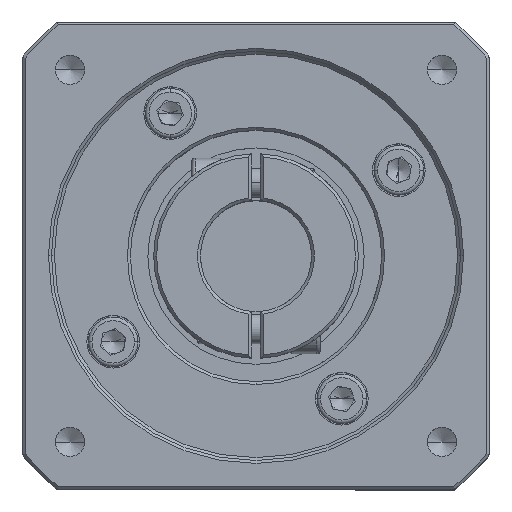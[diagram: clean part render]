
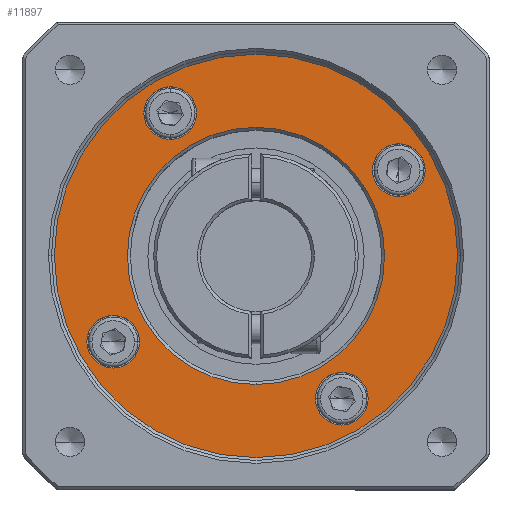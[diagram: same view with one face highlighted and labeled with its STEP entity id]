
A CAD part, top view. The second image highlights one B-rep face of the part: STEP entity #11897.
In plain terms, the highlighted planar face has unit normal (0, 0, 1).
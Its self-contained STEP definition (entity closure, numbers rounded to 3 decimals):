
#273 = DIRECTION ( 'NONE',  ( 1., 0., 0. ) ) ;
#338 = CARTESIAN_POINT ( 'NONE',  ( -43.248, 23.13, 32.239 ) ) ;
#1058 = DIRECTION ( 'NONE',  ( 0., 0., -1. ) ) ;
#1316 = AXIS2_PLACEMENT_3D ( 'NONE', #5405, #56352, #273 ) ;
#1879 = DIRECTION ( 'NONE',  ( 1., 0., 0. ) ) ;
#2156 = CARTESIAN_POINT ( 'NONE',  ( -72.177, 8.452, 32.239 ) ) ;
#2739 = VERTEX_POINT ( 'NONE', #53524 ) ;
#3490 = ORIENTED_EDGE ( 'NONE', *, *, #63271, .T. ) ;
#3627 = DIRECTION ( 'NONE',  ( 1., 0., 0. ) ) ;
#4396 = DIRECTION ( 'NONE',  ( 1., 0., 0. ) ) ;
#4663 = CARTESIAN_POINT ( 'NONE',  ( -43.248, 23.13, 32.239 ) ) ;
#5280 = EDGE_LOOP ( 'NONE', ( #51762, #47919 ) ) ;
#5405 = CARTESIAN_POINT ( 'NONE',  ( -67.677, 8.452, 32.239 ) ) ;
#6838 = DIRECTION ( 'NONE',  ( 0., 0., 1. ) ) ;
#6899 = CARTESIAN_POINT ( 'NONE',  ( -43.248, 23.13, 32.239 ) ) ;
#7032 = DIRECTION ( 'NONE',  ( 1., 0., 0. ) ) ;
#7097 = VERTEX_POINT ( 'NONE', #59295 ) ;
#7303 = FACE_OUTER_BOUND ( 'NONE', #44207, .T. ) ;
#7566 = EDGE_CURVE ( 'NONE', #13433, #33859, #61888, .T. ) ;
#9290 = EDGE_LOOP ( 'NONE', ( #30066, #75262 ) ) ;
#9489 = EDGE_CURVE ( 'NONE', #14226, #14202, #27117, .T. ) ;
#10874 = AXIS2_PLACEMENT_3D ( 'NONE', #69999, #45006, #38437 ) ;
#11296 = CIRCLE ( 'NONE', #22037, 4.5 ) ;
#11306 = CARTESIAN_POINT ( 'NONE',  ( -8.748, 23.13, 32.239 ) ) ;
#11422 = CIRCLE ( 'NONE', #46337, 4.5 ) ;
#11675 = CIRCLE ( 'NONE', #61567, 34.5 ) ;
#11897 = ADVANCED_FACE ( 'NONE', ( #63905, #7303, #57037, #30707, #78510, #74578 ), #36251, .T. ) ;
#12022 = ORIENTED_EDGE ( 'NONE', *, *, #64963, .T. ) ;
#13433 = VERTEX_POINT ( 'NONE', #41817 ) ;
#14050 = EDGE_LOOP ( 'NONE', ( #34377, #3490 ) ) ;
#14202 = VERTEX_POINT ( 'NONE', #14362 ) ;
#14226 = VERTEX_POINT ( 'NONE', #2156 ) ;
#14232 = EDGE_CURVE ( 'NONE', #32141, #39392, #11296, .T. ) ;
#14362 = CARTESIAN_POINT ( 'NONE',  ( -63.177, 8.452, 32.239 ) ) ;
#14648 = CIRCLE ( 'NONE', #10874, 4.5 ) ;
#16635 = ORIENTED_EDGE ( 'NONE', *, *, #65085, .T. ) ;
#17646 = DIRECTION ( 'NONE',  ( 1., 0., 0. ) ) ;
#19461 = EDGE_CURVE ( 'NONE', #14202, #14226, #19633, .T. ) ;
#19633 = CIRCLE ( 'NONE', #71092, 4.5 ) ;
#22037 = AXIS2_PLACEMENT_3D ( 'NONE', #45222, #76546, #1879 ) ;
#23195 = DIRECTION ( 'NONE',  ( 1., 0., 0. ) ) ;
#23222 = DIRECTION ( 'NONE',  ( 0., 0., -1. ) ) ;
#23503 = CARTESIAN_POINT ( 'NONE',  ( -14.319, 37.809, 32.239 ) ) ;
#24129 = CARTESIAN_POINT ( 'NONE',  ( -43.248, 23.13, 32.239 ) ) ;
#27117 = CIRCLE ( 'NONE', #1316, 4.5 ) ;
#28184 = EDGE_CURVE ( 'NONE', #7097, #32059, #62488, .T. ) ;
#28733 = DIRECTION ( 'NONE',  ( 0., 0., -1. ) ) ;
#29053 = ORIENTED_EDGE ( 'NONE', *, *, #58719, .T. ) ;
#29219 = CARTESIAN_POINT ( 'NONE',  ( -67.677, 8.452, 32.239 ) ) ;
#30066 = ORIENTED_EDGE ( 'NONE', *, *, #19461, .T. ) ;
#30707 = FACE_BOUND ( 'NONE', #5280, .T. ) ;
#31125 = DIRECTION ( 'NONE',  ( 1., 0., 0. ) ) ;
#32059 = VERTEX_POINT ( 'NONE', #57498 ) ;
#32141 = VERTEX_POINT ( 'NONE', #64617 ) ;
#32670 = AXIS2_PLACEMENT_3D ( 'NONE', #6899, #74232, #68471 ) ;
#33859 = VERTEX_POINT ( 'NONE', #23503 ) ;
#33946 = CARTESIAN_POINT ( 'NONE',  ( -18.819, 37.809, 32.239 ) ) ;
#34377 = ORIENTED_EDGE ( 'NONE', *, *, #34925, .T. ) ;
#34925 = EDGE_CURVE ( 'NONE', #76988, #2739, #38392, .T. ) ;
#35827 = CARTESIAN_POINT ( 'NONE',  ( -28.569, -1.299, 32.239 ) ) ;
#36251 = PLANE ( 'NONE',  #47465 ) ;
#36819 = CARTESIAN_POINT ( 'NONE',  ( -53.427, 47.56, 32.239 ) ) ;
#37474 = AXIS2_PLACEMENT_3D ( 'NONE', #4663, #79891, #73072 ) ;
#38260 = AXIS2_PLACEMENT_3D ( 'NONE', #79082, #78826, #23195 ) ;
#38392 = CIRCLE ( 'NONE', #37474, 22. ) ;
#38437 = DIRECTION ( 'NONE',  ( 1., 0., 0. ) ) ;
#39392 = VERTEX_POINT ( 'NONE', #36819 ) ;
#39554 = EDGE_LOOP ( 'NONE', ( #29053, #45733 ) ) ;
#40404 = EDGE_CURVE ( 'NONE', #33859, #13433, #11422, .T. ) ;
#41817 = CARTESIAN_POINT ( 'NONE',  ( -23.319, 37.809, 32.239 ) ) ;
#44207 = EDGE_LOOP ( 'NONE', ( #12022, #53771 ) ) ;
#45006 = DIRECTION ( 'NONE',  ( 0., 0., -1. ) ) ;
#45222 = CARTESIAN_POINT ( 'NONE',  ( -57.927, 47.56, 32.239 ) ) ;
#45733 = ORIENTED_EDGE ( 'NONE', *, *, #14232, .T. ) ;
#46337 = AXIS2_PLACEMENT_3D ( 'NONE', #33946, #53217, #3627 ) ;
#47465 = AXIS2_PLACEMENT_3D ( 'NONE', #24129, #49434, #62343 ) ;
#47919 = ORIENTED_EDGE ( 'NONE', *, *, #7566, .T. ) ;
#49434 = DIRECTION ( 'NONE',  ( 0., 0., 1. ) ) ;
#50168 = AXIS2_PLACEMENT_3D ( 'NONE', #65948, #78485, #17646 ) ;
#51762 = ORIENTED_EDGE ( 'NONE', *, *, #40404, .T. ) ;
#52033 = AXIS2_PLACEMENT_3D ( 'NONE', #62711, #1058, #7032 ) ;
#53217 = DIRECTION ( 'NONE',  ( 0., 0., -1. ) ) ;
#53524 = CARTESIAN_POINT ( 'NONE',  ( -43.248, 45.13, 32.239 ) ) ;
#53708 = CIRCLE ( 'NONE', #38260, 34.5 ) ;
#53771 = ORIENTED_EDGE ( 'NONE', *, *, #73694, .T. ) ;
#56352 = DIRECTION ( 'NONE',  ( 0., 0., -1. ) ) ;
#57037 = FACE_BOUND ( 'NONE', #68394, .T. ) ;
#57498 = CARTESIAN_POINT ( 'NONE',  ( -24.069, -1.299, 32.239 ) ) ;
#58719 = EDGE_CURVE ( 'NONE', #39392, #32141, #63847, .T. ) ;
#59284 = CARTESIAN_POINT ( 'NONE',  ( -77.748, 23.13, 32.239 ) ) ;
#59295 = CARTESIAN_POINT ( 'NONE',  ( -33.069, -1.299, 32.239 ) ) ;
#60092 = DIRECTION ( 'NONE',  ( 1., 0., 0. ) ) ;
#61567 = AXIS2_PLACEMENT_3D ( 'NONE', #338, #6838, #31125 ) ;
#61888 = CIRCLE ( 'NONE', #50168, 4.5 ) ;
#62343 = DIRECTION ( 'NONE',  ( 1., 0., 0. ) ) ;
#62488 = CIRCLE ( 'NONE', #63105, 4.5 ) ;
#62711 = CARTESIAN_POINT ( 'NONE',  ( -57.927, 47.56, 32.239 ) ) ;
#63105 = AXIS2_PLACEMENT_3D ( 'NONE', #35827, #28733, #60092 ) ;
#63271 = EDGE_CURVE ( 'NONE', #2739, #76988, #64891, .T. ) ;
#63847 = CIRCLE ( 'NONE', #52033, 4.5 ) ;
#63905 = FACE_BOUND ( 'NONE', #14050, .T. ) ;
#64617 = CARTESIAN_POINT ( 'NONE',  ( -62.427, 47.56, 32.239 ) ) ;
#64891 = CIRCLE ( 'NONE', #32670, 22. ) ;
#64963 = EDGE_CURVE ( 'NONE', #68944, #71944, #11675, .T. ) ;
#65085 = EDGE_CURVE ( 'NONE', #32059, #7097, #14648, .T. ) ;
#65948 = CARTESIAN_POINT ( 'NONE',  ( -18.819, 37.809, 32.239 ) ) ;
#68394 = EDGE_LOOP ( 'NONE', ( #16635, #72274 ) ) ;
#68471 = DIRECTION ( 'NONE',  ( 0., -1., 0. ) ) ;
#68944 = VERTEX_POINT ( 'NONE', #11306 ) ;
#69999 = CARTESIAN_POINT ( 'NONE',  ( -28.569, -1.299, 32.239 ) ) ;
#71092 = AXIS2_PLACEMENT_3D ( 'NONE', #29219, #23222, #4396 ) ;
#71944 = VERTEX_POINT ( 'NONE', #59284 ) ;
#72274 = ORIENTED_EDGE ( 'NONE', *, *, #28184, .T. ) ;
#73072 = DIRECTION ( 'NONE',  ( 0., -1., 0. ) ) ;
#73694 = EDGE_CURVE ( 'NONE', #71944, #68944, #53708, .T. ) ;
#74232 = DIRECTION ( 'NONE',  ( 0., 0., -1. ) ) ;
#74578 = FACE_BOUND ( 'NONE', #39554, .T. ) ;
#75262 = ORIENTED_EDGE ( 'NONE', *, *, #9489, .T. ) ;
#76546 = DIRECTION ( 'NONE',  ( 0., 0., -1. ) ) ;
#76988 = VERTEX_POINT ( 'NONE', #78045 ) ;
#78045 = CARTESIAN_POINT ( 'NONE',  ( -43.248, 1.13, 32.239 ) ) ;
#78485 = DIRECTION ( 'NONE',  ( 0., 0., -1. ) ) ;
#78510 = FACE_BOUND ( 'NONE', #9290, .T. ) ;
#78826 = DIRECTION ( 'NONE',  ( 0., 0., 1. ) ) ;
#79082 = CARTESIAN_POINT ( 'NONE',  ( -43.248, 23.13, 32.239 ) ) ;
#79891 = DIRECTION ( 'NONE',  ( 0., 0., -1. ) ) ;
